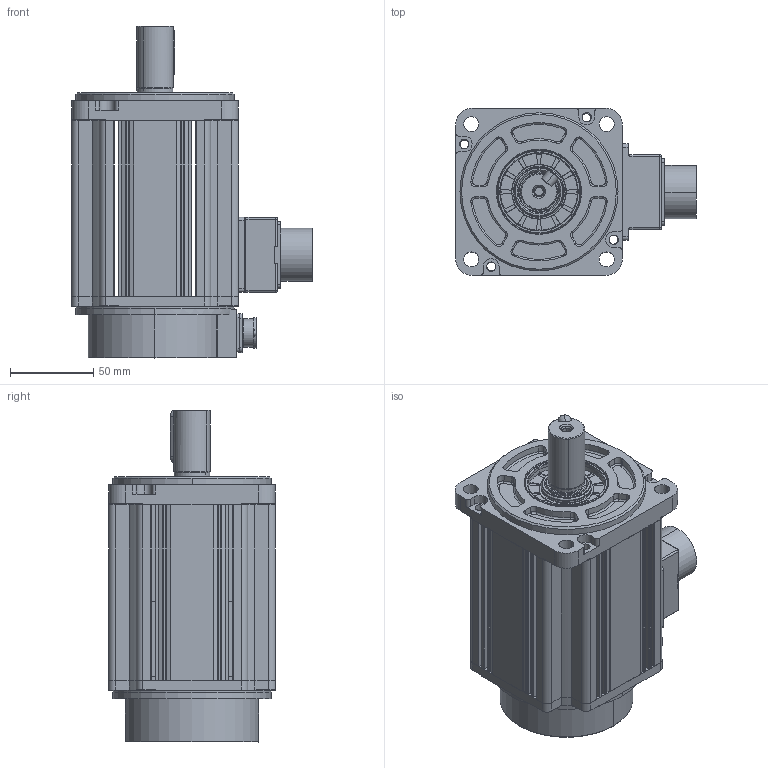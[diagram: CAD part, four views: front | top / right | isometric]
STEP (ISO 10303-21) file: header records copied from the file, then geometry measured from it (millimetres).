
FILE_DESCRIPTION(('FreeCAD Model'),'2;1');
FILE_NAME('Open CASCADE Shape Model','2025-03-17T13:23:22',('Author'),( ''),'Open CASCADE STEP processor 7.6','FreeCAD','Unknown');
FILE_SCHEMA(('AUTOMOTIVE_DESIGN { 1 0 10303 214 1 1 1 1 }'));
Length unit declared in the file: millimetre
Products named in the file (19): PSM6S-100CS30B2-21P5; PSM6S-100CS30B2-21P006; PSM6S-100CS30B2-21P007; PSM6S-100CS30B2-21P008; PSM6S-100CS30B2-21P009; PSM6S-100CS30B2-21P010; PSM6S-100CS30B2-21P011; PSM6S-100CS30B2-21P012; PSM6S-100CS30B2-21P013; PSM6S-100CS30B2-21P014; PSM6S-100CS30B2-21P015; PSM6S-100CS30B2-21P016; PSM6S-100CS30B2-21P017; PSM6S-100CS30B2-21P018; PSM6S-100CS30B2-21P019; PSM6S-100CS30B2-21P020; PSM6S-100CS30B2-21P021; PSM6S-100CS30B2-21P022; PSM6S-100CS30B2-21P023
Assembly tree (18 placements, depth 2):
  PSM6S-100CS30B2-21P5
    PSM6S-100CS30B2-21P006
    PSM6S-100CS30B2-21P007
    PSM6S-100CS30B2-21P008
    PSM6S-100CS30B2-21P009
    PSM6S-100CS30B2-21P010
    PSM6S-100CS30B2-21P011
    PSM6S-100CS30B2-21P012
    PSM6S-100CS30B2-21P013
    PSM6S-100CS30B2-21P014
    PSM6S-100CS30B2-21P015
    PSM6S-100CS30B2-21P016
    PSM6S-100CS30B2-21P017
    PSM6S-100CS30B2-21P018
    PSM6S-100CS30B2-21P019
    PSM6S-100CS30B2-21P020
    PSM6S-100CS30B2-21P021
    PSM6S-100CS30B2-21P022
    PSM6S-100CS30B2-21P023
Bounding box: 144.8 x 100.3 x 199.5 mm (x, y, z)
Surface area: 115655.5 mm2 (no closed solid volume)
Topology: 0 solids, 18 shells, 767 faces, 2486 edges, 1711 vertices
Faces by surface type: cylinder 330, plane 286, torus 59, cone 48, bspline 40, sphere 4
Entity records: 29743 total; most frequent: CARTESIAN_POINT 7653, DIRECTION 4627, ORIENTED_EDGE 4130, EDGE_CURVE 2480, VERTEX_POINT 1711, AXIS2_PLACEMENT_3D 1693, LINE 1241, VECTOR 1241
